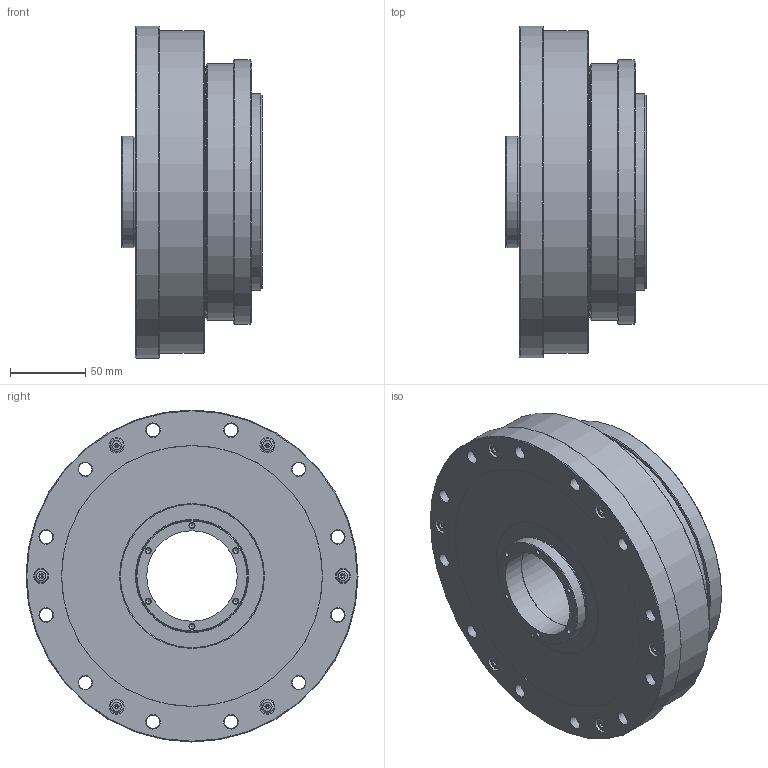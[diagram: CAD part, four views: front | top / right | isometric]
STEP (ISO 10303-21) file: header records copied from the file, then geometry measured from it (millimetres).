
FILE_DESCRIPTION(/* description */ (''),/* implementation_level */ '2;1');
FILE_NAME(/* name */ 'FHG-50-XX-U-III.stp',/* time_stamp */ '2025-03-31T14:24:04+08:00',/* author */ (''),/* organization */ (''),/* preprocessor_version */ 'ST-DEVELOPER v16.7',/* originating_system */ 'SIEMENS PLM Software NX 12.0',/* authorisation */ '');
FILE_SCHEMA (('AUTOMOTIVE_DESIGN { 1 0 10303 214 3 1 1 1 }'));
Length unit declared in the file: millimetre
Products named in the file (15): 卡簧; 上壳体; 油封; 刚轮; 交叉轴承; 下壳体; 柔轮; 发生器; 油封1; GB-T276_60000_2RZ-1994,61915_2RZ; GB-T276_60000_2RZ-1994,61815_2RZ; GB-T70.1-2000,M5x30; 内六角平圆头螺钉M5x16; 柔性轴承; _asm1
Assembly tree (26 placements, depth 2):
  _asm1
    柔性轴承
    内六角平圆头螺钉M5x16  x6
    GB-T70.1-2000,M5x30  x8
    GB-T276_60000_2RZ-1994,61815_2RZ
    GB-T276_60000_2RZ-1994,61915_2RZ
    油封1
    发生器
    柔轮
    下壳体
    交叉轴承
    刚轮
    油封
    上壳体
    卡簧
Bounding box: 93 x 220 x 220 mm (x, y, z)
Volume: 1770951.5 mm3; surface area: 654787.1 mm2
Topology: 82 solids, 82 shells, 1047 faces, 2273 edges, 1382 vertices
Faces by surface type: cone 392, plane 288, cylinder 271, torus 49, sphere 47
Full cylindrical faces by diameter (mm): 3.3 x6, 4.2 x14, 4.826 x8, 4.874 x6, 5.5 x28, 6.8 x16, 8.5 x14, 9 x68, 10 x14, 60 x2, 60.5 x1, 68.5 x1, 69 x2, 72 x2, 73.5 x1, 74 x1, 74.5 x2, 75 x6, 78 x2, 80 x1, 81 x1, 81.667 x2, 85 x1, 85.001 x2, 87.9 x1, 88.333 x2, 88.9 x2, 89.333 x4, 90 x1, 93 x1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
Entity records: 18726 total; most frequent: DIRECTION 3268, CARTESIAN_POINT 2602, ORIENTED_EDGE 1706, FACE_BOUND 1685, EDGE_LOOP 1626, AXIS2_PLACEMENT_3D 1616, VERTEX_POINT 914, EDGE_CURVE 853
